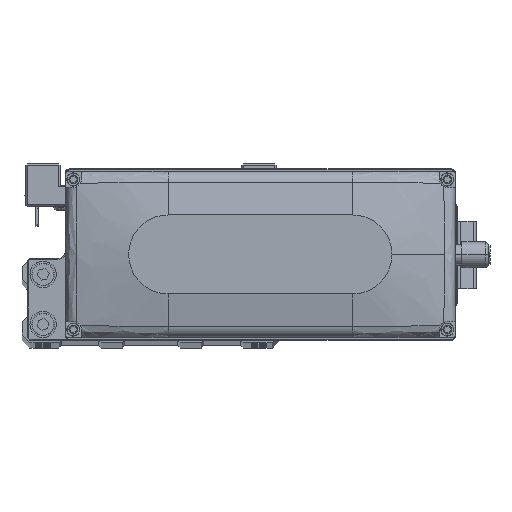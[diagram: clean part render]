
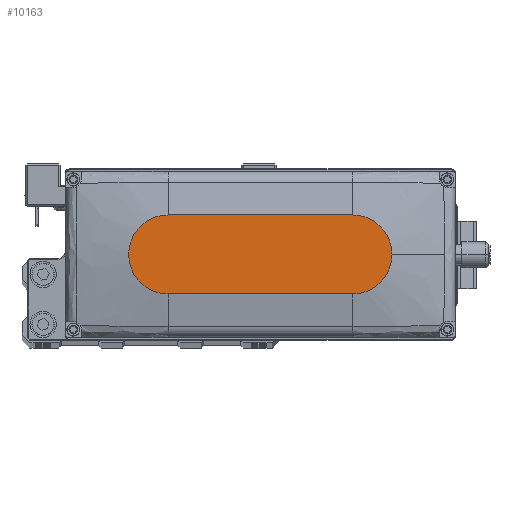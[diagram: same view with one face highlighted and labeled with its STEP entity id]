
A CAD part, top view. The second image highlights one B-rep face of the part: STEP entity #10163.
In plain terms, the highlighted planar face has unit normal (0, 0, 1).
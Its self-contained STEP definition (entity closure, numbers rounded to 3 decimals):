
#1549 = LINE ( 'NONE', #15381, #11767 ) ;
#3279 = VERTEX_POINT ( 'NONE', #19452 ) ;
#4330 = EDGE_CURVE ( 'NONE', #39733, #38886, #16639, .T. ) ;
#5090 = EDGE_LOOP ( 'NONE', ( #42503, #6620, #31513, #25830, #16102 ) ) ;
#5157 = EDGE_CURVE ( 'NONE', #38886, #6044, #14542, .T. ) ;
#6044 = VERTEX_POINT ( 'NONE', #7870 ) ;
#6242 = AXIS2_PLACEMENT_3D ( 'NONE', #28546, #42335, #11335 ) ;
#6620 = ORIENTED_EDGE ( 'NONE', *, *, #30852, .T. ) ;
#7190 = DIRECTION ( 'NONE',  ( 1., 0., 0. ) ) ;
#7870 = CARTESIAN_POINT ( 'NONE',  ( 35., 15., 35. ) ) ;
#8439 = CARTESIAN_POINT ( 'NONE',  ( -35., -15., 35. ) ) ;
#9959 = CARTESIAN_POINT ( 'NONE',  ( 35., 0., 35. ) ) ;
#10163 = ADVANCED_FACE ( 'NONE', ( #41581 ), #10585, .T. ) ;
#10291 = DIRECTION ( 'NONE',  ( 1., 0., 0. ) ) ;
#10585 = PLANE ( 'NONE',  #27382 ) ;
#11335 = DIRECTION ( 'NONE',  ( 1., 0., 0. ) ) ;
#11767 = VECTOR ( 'NONE', #29168, 1000. ) ;
#12272 = CARTESIAN_POINT ( 'NONE',  ( 35., -15., 35. ) ) ;
#14542 = CIRCLE ( 'NONE', #39807, 15. ) ;
#15381 = CARTESIAN_POINT ( 'NONE',  ( -35., 15., 35. ) ) ;
#16102 = ORIENTED_EDGE ( 'NONE', *, *, #5157, .T. ) ;
#16639 = CIRCLE ( 'NONE', #41909, 15. ) ;
#19432 = CARTESIAN_POINT ( 'NONE',  ( 50., 0., 35. ) ) ;
#19452 = CARTESIAN_POINT ( 'NONE',  ( -35., -15., 35. ) ) ;
#22265 = DIRECTION ( 'NONE',  ( 1., 0., 0. ) ) ;
#23775 = DIRECTION ( 'NONE',  ( 0., 0., 1. ) ) ;
#24413 = CARTESIAN_POINT ( 'NONE',  ( 0., 0., 35. ) ) ;
#25763 = CIRCLE ( 'NONE', #6242, 15. ) ;
#25830 = ORIENTED_EDGE ( 'NONE', *, *, #4330, .T. ) ;
#27382 = AXIS2_PLACEMENT_3D ( 'NONE', #24413, #38190, #7190 ) ;
#27513 = CARTESIAN_POINT ( 'NONE',  ( 35., 0., 35. ) ) ;
#28546 = CARTESIAN_POINT ( 'NONE',  ( -35., 0., 35. ) ) ;
#28890 = CARTESIAN_POINT ( 'NONE',  ( -35., 15., 35. ) ) ;
#29168 = DIRECTION ( 'NONE',  ( -1., 0., 0. ) ) ;
#29485 = EDGE_CURVE ( 'NONE', #3279, #39733, #39429, .T. ) ;
#30852 = EDGE_CURVE ( 'NONE', #32943, #3279, #25763, .T. ) ;
#31458 = VECTOR ( 'NONE', #22265, 1000. ) ;
#31513 = ORIENTED_EDGE ( 'NONE', *, *, #29485, .T. ) ;
#32502 = EDGE_CURVE ( 'NONE', #6044, #32943, #1549, .T. ) ;
#32943 = VERTEX_POINT ( 'NONE', #28890 ) ;
#37565 = DIRECTION ( 'NONE',  ( 1., 0., 0. ) ) ;
#38190 = DIRECTION ( 'NONE',  ( 0., 0., 1. ) ) ;
#38886 = VERTEX_POINT ( 'NONE', #19432 ) ;
#39429 = LINE ( 'NONE', #8439, #31458 ) ;
#39733 = VERTEX_POINT ( 'NONE', #12272 ) ;
#39807 = AXIS2_PLACEMENT_3D ( 'NONE', #27513, #41287, #10291 ) ;
#41287 = DIRECTION ( 'NONE',  ( 0., 0., 1. ) ) ;
#41581 = FACE_OUTER_BOUND ( 'NONE', #5090, .T. ) ;
#41909 = AXIS2_PLACEMENT_3D ( 'NONE', #9959, #23775, #37565 ) ;
#42335 = DIRECTION ( 'NONE',  ( 0., 0., 1. ) ) ;
#42503 = ORIENTED_EDGE ( 'NONE', *, *, #32502, .T. ) ;
